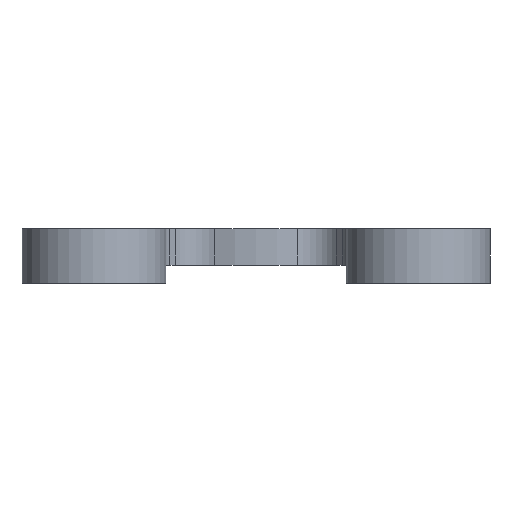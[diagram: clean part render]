
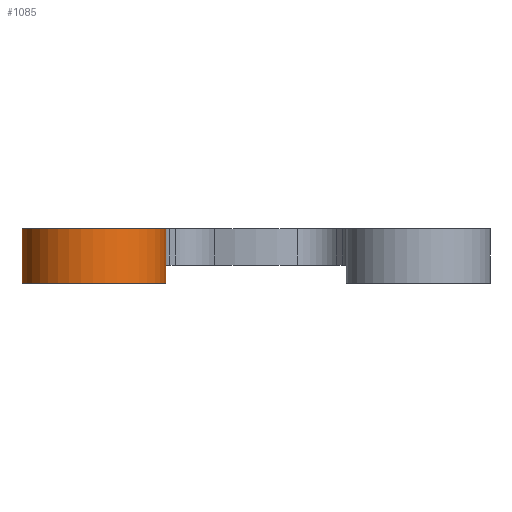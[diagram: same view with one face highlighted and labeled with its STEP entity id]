
A CAD part, front view. The second image highlights one B-rep face of the part: STEP entity #1085.
In plain terms, the highlighted cylindrical face has radius 20 mm (diameter 40 mm), a partial arc.
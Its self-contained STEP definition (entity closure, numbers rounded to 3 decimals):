
#31=CYLINDRICAL_SURFACE('',#1209,20.);
#114=FACE_OUTER_BOUND('',#186,.T.);
#186=EDGE_LOOP('',(#826,#827,#828,#829));
#272=LINE('',#1840,#337);
#273=LINE('',#1841,#338);
#337=VECTOR('',#1439,10.);
#338=VECTOR('',#1440,10.);
#389=CIRCLE('',#1161,20.);
#429=CIRCLE('',#1210,20.);
#479=VERTEX_POINT('',#1704);
#480=VERTEX_POINT('',#1705);
#525=VERTEX_POINT('',#1811);
#528=VERTEX_POINT('',#1825);
#586=EDGE_CURVE('',#479,#480,#389,.T.);
#643=EDGE_CURVE('',#480,#528,#272,.T.);
#644=EDGE_CURVE('',#525,#479,#273,.T.);
#645=EDGE_CURVE('',#528,#525,#429,.T.);
#826=ORIENTED_EDGE('',*,*,#643,.F.);
#827=ORIENTED_EDGE('',*,*,#586,.F.);
#828=ORIENTED_EDGE('',*,*,#644,.F.);
#829=ORIENTED_EDGE('',*,*,#645,.F.);
#1085=ADVANCED_FACE('',(#114),#31,.T.);
#1161=AXIS2_PLACEMENT_3D('',#1706,#1326,#1327);
#1209=AXIS2_PLACEMENT_3D('',#1839,#1437,#1438);
#1210=AXIS2_PLACEMENT_3D('',#1842,#1441,#1442);
#1326=DIRECTION('center_axis',(0.,0.,1.));
#1327=DIRECTION('ref_axis',(1.,0.,0.));
#1437=DIRECTION('center_axis',(0.,0.,-1.));
#1438=DIRECTION('ref_axis',(-0.633,-0.774,0.));
#1439=DIRECTION('',(0.,0.,-1.));
#1440=DIRECTION('',(0.,0.,1.));
#1441=DIRECTION('center_axis',(0.,0.,-1.));
#1442=DIRECTION('ref_axis',(1.,0.,0.));
#1704=CARTESIAN_POINT('',(-43.336,-35.069,0.));
#1705=CARTESIAN_POINT('',(-25.793,-49.423,0.));
#1706=CARTESIAN_POINT('Origin',(-45.,-55.,0.));
#1811=CARTESIAN_POINT('',(-43.336,-35.069,-15.));
#1825=CARTESIAN_POINT('',(-25.793,-49.423,-15.));
#1839=CARTESIAN_POINT('Origin',(-45.,-55.,0.));
#1840=CARTESIAN_POINT('',(-25.793,-49.423,0.));
#1841=CARTESIAN_POINT('',(-43.336,-35.069,0.));
#1842=CARTESIAN_POINT('Origin',(-45.,-55.,-15.));
